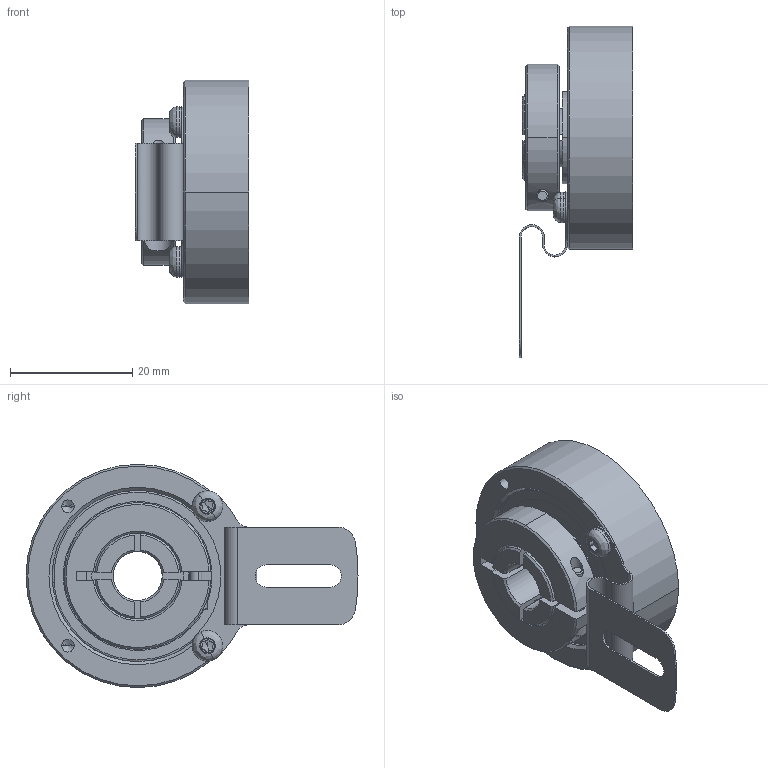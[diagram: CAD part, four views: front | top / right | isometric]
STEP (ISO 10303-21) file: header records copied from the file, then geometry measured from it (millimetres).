
FILE_DESCRIPTION (( 'STEP AP214' ), '1' );
FILE_NAME ('drawing-ucd-v8a0-q3a-n.STEP', '2017-01-16T15:40:22', ( '' ), ( '' ), 'SwSTEP 2.0', 'SolidWorks 2015', '' );
FILE_SCHEMA (( 'AUTOMOTIVE_DESIGN' ));
Length unit declared in the file: millimetre
Products named in the file (1): drawing-ucd-v8a0-q3a-n
Bounding box: 18.5 x 54.25 x 36.5 mm (x, y, z)
Volume: 10573.2 mm3; surface area: 13847.4 mm2
Topology: 20 solids, 20 shells, 431 faces, 1091 edges, 663 vertices
Faces by surface type: cylinder 146, plane 113, cone 84, bspline 84, torus 4
Entity records: 20341 total; most frequent: CARTESIAN_POINT 5547, ORIENTED_EDGE 2070, DIRECTION 2043, EDGE_CURVE 1035, AXIS2_PLACEMENT_3D 865, VERTEX_POINT 663, CIRCLE 517, EDGE_LOOP 490
